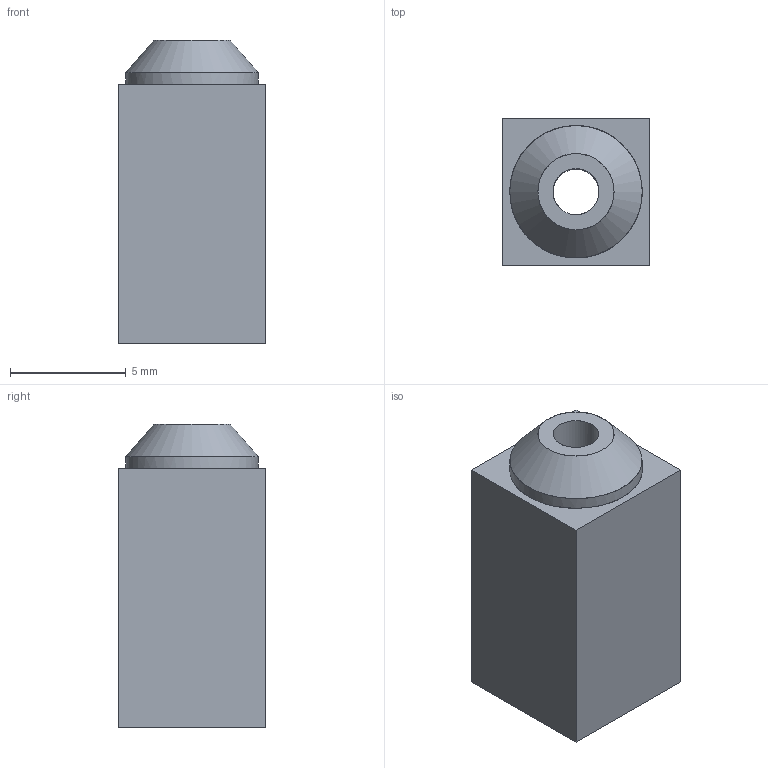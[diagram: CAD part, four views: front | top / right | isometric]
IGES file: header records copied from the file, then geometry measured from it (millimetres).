
Global section: file name: C:\Users\gehrichcr\Documents\1 Drive Backup\Practice\Inspire\V1.5\IGES\Drill Guide for Wood Screw.igs; native system: NX V8.5; preprocessor: SIEMENS PLM Software NX 8.5; date: 20150619.122016; units: millimetre
Bounding box: 6.35 x 6.35 x 13.11 mm (x, y, z)
Surface area: 459 mm2 (no closed solid volume)
Topology: 0 solids, 0 shells, 10 faces, 70 edges, 66 vertices
Faces by surface type: bspline 10
